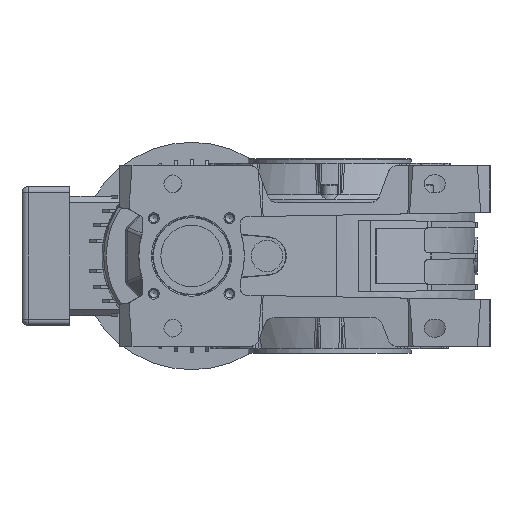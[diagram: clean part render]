
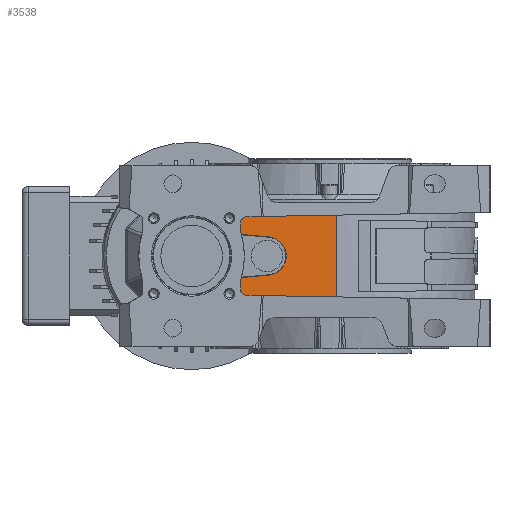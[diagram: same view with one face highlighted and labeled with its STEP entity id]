
A CAD part, left-side view. The second image highlights one B-rep face of the part: STEP entity #3538.
In plain terms, the highlighted planar face has unit normal (-0.999, -0.044, 0).
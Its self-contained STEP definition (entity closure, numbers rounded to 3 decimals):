
#3538 = ADVANCED_FACE( '', ( #7757 ), #7758, .F. );
#7757 = FACE_OUTER_BOUND( '', #14803, .T. );
#7758 = PLANE( '', #14804 );
#14803 = EDGE_LOOP( '', ( #26792, #26793, #26794, #26795, #26796, #26797, #26798, #26799, #26800, #26801, #26802, #26803 ) );
#14804 = AXIS2_PLACEMENT_3D( '', #26804, #26805, #26806 );
#26792 = ORIENTED_EDGE( '', *, *, #34064, .F. );
#26793 = ORIENTED_EDGE( '', *, *, #32178, .T. );
#26794 = ORIENTED_EDGE( '', *, *, #32831, .F. );
#26795 = ORIENTED_EDGE( '', *, *, #34206, .F. );
#26796 = ORIENTED_EDGE( '', *, *, #34415, .F. );
#26797 = ORIENTED_EDGE( '', *, *, #34929, .F. );
#26798 = ORIENTED_EDGE( '', *, *, #31953, .F. );
#26799 = ORIENTED_EDGE( '', *, *, #34203, .F. );
#26800 = ORIENTED_EDGE( '', *, *, #34930, .T. );
#26801 = ORIENTED_EDGE( '', *, *, #34931, .T. );
#26802 = ORIENTED_EDGE( '', *, *, #33450, .F. );
#26803 = ORIENTED_EDGE( '', *, *, #31740, .T. );
#26804 = CARTESIAN_POINT( '', ( -115.39, -5.038, -44. ) );
#26805 = DIRECTION( '', ( 0.999, 0.044, 0. ) );
#26806 = DIRECTION( '', ( 0.044, -0.999, 0. ) );
#31740 = EDGE_CURVE( '', #37759, #37766, #37768, .T. );
#31953 = EDGE_CURVE( '', #38118, #38121, #38122, .F. );
#32178 = EDGE_CURVE( '', #38474, #38478, #38480, .F. );
#32831 = EDGE_CURVE( '', #39547, #38478, #39549, .T. );
#33450 = EDGE_CURVE( '', #37759, #40471, #40490, .F. );
#34064 = EDGE_CURVE( '', #38474, #37766, #41350, .F. );
#34203 = EDGE_CURVE( '', #41537, #38118, #41539, .F. );
#34206 = EDGE_CURVE( '', #41542, #39547, #41544, .F. );
#34415 = EDGE_CURVE( '', #41801, #41542, #41803, .F. );
#34929 = EDGE_CURVE( '', #38121, #41801, #42457, .F. );
#34930 = EDGE_CURVE( '', #41537, #42458, #42459, .T. );
#34931 = EDGE_CURVE( '', #42458, #40471, #42460, .F. );
#37759 = VERTEX_POINT( '', #48874 );
#37766 = VERTEX_POINT( '', #48881 );
#37768 = LINE( '', #48883, #48884 );
#38118 = VERTEX_POINT( '', #49697 );
#38121 = VERTEX_POINT( '', #49700 );
#38122 = LINE( '', #49701, #49702 );
#38474 = VERTEX_POINT( '', #50265 );
#38478 = VERTEX_POINT( '', #50270 );
#38480 = ELLIPSE( '', #50273, 5.005, 5. );
#39547 = VERTEX_POINT( '', #52886 );
#39549 = LINE( '', #52889, #52890 );
#40471 = VERTEX_POINT( '', #55001 );
#40490 = LINE( '', #55032, #55033 );
#41350 = LINE( '', #56927, #56928 );
#41537 = VERTEX_POINT( '', #57300 );
#41539 = ELLIPSE( '', #57303, 63.06, 63. );
#41542 = VERTEX_POINT( '', #57306 );
#41544 = ELLIPSE( '', #57308, 63.06, 63. );
#41801 = VERTEX_POINT( '', #57852 );
#41803 = LINE( '', #57855, #57856 );
#42457 = ELLIPSE( '', #59331, 15.353, 15.338 );
#42458 = VERTEX_POINT( '', #59332 );
#42459 = LINE( '', #59333, #59334 );
#42460 = ELLIPSE( '', #59335, 5.005, 5. );
#48874 = CARTESIAN_POINT( '', ( -115.39, -5.038, -32.537 ) );
#48881 = CARTESIAN_POINT( '', ( -115.39, -5.038, 32.537 ) );
#48883 = CARTESIAN_POINT( '', ( -115.39, -5.038, -44. ) );
#48884 = VECTOR( '', #62296, 1000. );
#49697 = CARTESIAN_POINT( '', ( -118.683, 70.374, -17.133 ) );
#49700 = CARTESIAN_POINT( '', ( -117.735, 48.663, -15.283 ) );
#49701 = CARTESIAN_POINT( '', ( -115.513, -2.228, -10.948 ) );
#49702 = VECTOR( '', #62544, 1000. );
#50265 = CARTESIAN_POINT( '', ( -118.495, 66.087, 31.295 ) );
#50270 = CARTESIAN_POINT( '', ( -118.71, 71., 26.296 ) );
#50273 = AXIS2_PLACEMENT_3D( '', #62830, #62831, #62832 );
#52886 = CARTESIAN_POINT( '', ( -118.71, 71., 19.209 ) );
#52889 = CARTESIAN_POINT( '', ( -118.71, 71., -44. ) );
#52890 = VECTOR( '', #63668, 1000. );
#55001 = CARTESIAN_POINT( '', ( -118.495, 66.087, -31.295 ) );
#55032 = CARTESIAN_POINT( '', ( -115.381, -5.238, -32.54 ) );
#55033 = VECTOR( '', #64284, 1000. );
#56927 = CARTESIAN_POINT( '', ( -115.448, -3.705, 32.514 ) );
#56928 = VECTOR( '', #64889, 1000. );
#57300 = CARTESIAN_POINT( '', ( -118.71, 71., -19.209 ) );
#57303 = AXIS2_PLACEMENT_3D( '', #65023, #65024, #65025 );
#57306 = CARTESIAN_POINT( '', ( -118.683, 70.374, 17.133 ) );
#57308 = AXIS2_PLACEMENT_3D( '', #65032, #65033, #65034 );
#57852 = CARTESIAN_POINT( '', ( -117.735, 48.663, 15.283 ) );
#57855 = CARTESIAN_POINT( '', ( -115.188, -9.656, 10.315 ) );
#57856 = VECTOR( '', #65202, 1000. );
#59331 = AXIS2_PLACEMENT_3D( '', #65725, #65726, #65727 );
#59332 = CARTESIAN_POINT( '', ( -118.71, 71., -26.296 ) );
#59333 = CARTESIAN_POINT( '', ( -118.71, 71., -44. ) );
#59334 = VECTOR( '', #65728, 1000. );
#59335 = AXIS2_PLACEMENT_3D( '', #65729, #65730, #65731 );
#62296 = DIRECTION( '', ( 0., 0., 1. ) );
#62544 = DIRECTION( '', ( -0.043, 0.995, -0.085 ) );
#62830 = CARTESIAN_POINT( '', ( -118.492, 66., 26.296 ) );
#62831 = DIRECTION( '', ( 0.999, 0.044, 0. ) );
#62832 = DIRECTION( '', ( 0.044, -0.999, 0. ) );
#63668 = DIRECTION( '', ( 0., 0., 1. ) );
#64284 = DIRECTION( '', ( 0.044, -0.999, -0.017 ) );
#64889 = DIRECTION( '', ( -0.044, 0.999, -0.017 ) );
#65023 = CARTESIAN_POINT( '', ( -121.33, 131., 0. ) );
#65024 = DIRECTION( '', ( 0.999, 0.044, 0. ) );
#65025 = DIRECTION( '', ( 0.044, -0.999, 0. ) );
#65032 = CARTESIAN_POINT( '', ( -121.33, 131., 0. ) );
#65033 = DIRECTION( '', ( 0.999, 0.044, 0. ) );
#65034 = DIRECTION( '', ( 0.044, -0.999, 0. ) );
#65202 = DIRECTION( '', ( 0.043, -0.995, -0.085 ) );
#65725 = CARTESIAN_POINT( '', ( -117.792, 49.965, 0. ) );
#65726 = DIRECTION( '', ( 0.999, 0.044, 0. ) );
#65727 = DIRECTION( '', ( 0.044, -0.999, 0. ) );
#65728 = DIRECTION( '', ( 0., 0., -1. ) );
#65729 = CARTESIAN_POINT( '', ( -118.492, 66., -26.296 ) );
#65730 = DIRECTION( '', ( 0.999, 0.044, 0. ) );
#65731 = DIRECTION( '', ( 0.044, -0.999, 0. ) );
